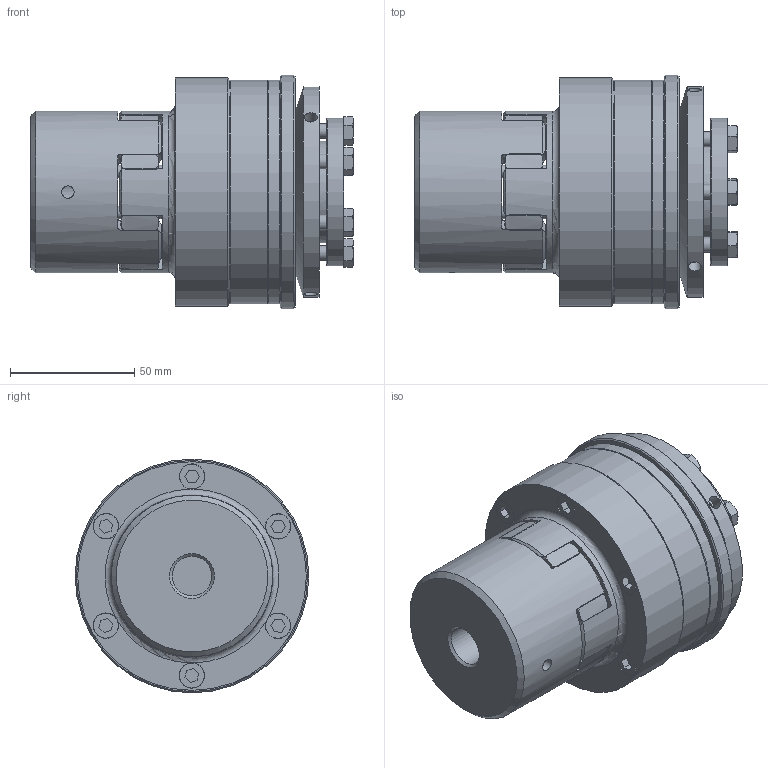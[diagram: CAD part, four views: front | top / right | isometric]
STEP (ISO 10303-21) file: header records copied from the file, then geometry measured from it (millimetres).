
FILE_DESCRIPTION( ( 'Unknown' ), '1' );
FILE_NAME( 'C:/Users/skarpstein/Desktop/Korrigierte 3D Modelle/KBK-E-PI/KBK EPI-28.stp', 'Unknown', ( 'Unknown' ), ( 'Unknown' ), 'PSStep 16.0.42', 'Unknown', ' ' );
FILE_SCHEMA( ( 'AUTOMOTIVE_DESIGN { 1 0 10303 214 1 1 1 1 }' ) );
Length unit declared in the file: millimetre
Products named in the file (30): ball_bearing_-_6008_0_03; ball_bearing_-_6008_0_02; Zylinderschraube DIN 912_0; ball_bearing_-_6008_0_01; KBK L-I-80 Grundkörper; Assem2_0; Zahnkranz EK28_Standard; Konusbuchse 80; Assem1_2; Flansch 80; Elastomerflansch 28; din_en_24017_m6x25; Stellring 80; a_40; Druckring 80; Assem1; KBE 1 - 28_Nabe
Assembly tree (39 placements, depth 4):
  Assem1
    KBE 1 - 28_Nabe
    KBK L-I-80 Grundkörper
      KBK L-I-80 Grundkörper
    Konusbuchse 80
      Konusbuchse 80
    Stellring 80
      Stellring 80
    Druckring 80
      Druckring 80
    Flansch 80
      Flansch 80
    a_40
      a_40
    din_en_24017_m6x25  x6
      din_en_24017_m6x25
    Elastomerflansch 28
      Elastomerflansch 28
    Zahnkranz EK28_Standard
      Zahnkranz EK28_Standard
    Assem1_2
      ball_bearing_-_6008_0_01
        ball_bearing_-_6008_0_01
      ball_bearing_-_6008_0_02
        ball_bearing_-_6008_0_02
      ball_bearing_-_6008_0_03
        ball_bearing_-_6008_0_03
    Assem2_0  x6
      Zylinderschraube DIN 912_0
        Zylinderschraube DIN 912_0
Bounding box: 129.89 x 94 x 94 mm (x, y, z)
Volume: 468685.1 mm3; surface area: 158529.5 mm2
Topology: 24 solids, 24 shells, 586 faces, 1327 edges, 852 vertices
Faces by surface type: plane 229, cylinder 173, cone 158, torus 26
Full cylindrical faces by diameter (mm): 2.5 x2, 3.242 x3, 4.917 x15, 5 x13, 5.2 x3, 6 x12, 6.2 x6, 6.6 x6, 8.8 x6, 10 x6, 10.2 x6, 16 x1, 30 x5, 37.5 x1, 40 x3, 41 x1, 49.2 x2, 59.1 x2, 59.5 x1, 61 x1, 62 x2, 65 x2, 68 x3, 70 x1, 85 x1, 87 x1, 90 x2, 92 x1, 94 x1
Entity records: 15592 total; most frequent: CARTESIAN_POINT 2868, DIRECTION 2036, ORIENTED_EDGE 1546, AXIS2_PLACEMENT_3D 945, EDGE_CURVE 773, EDGE_LOOP 648, VERTEX_POINT 569, FACE_OUTER_BOUND 511
